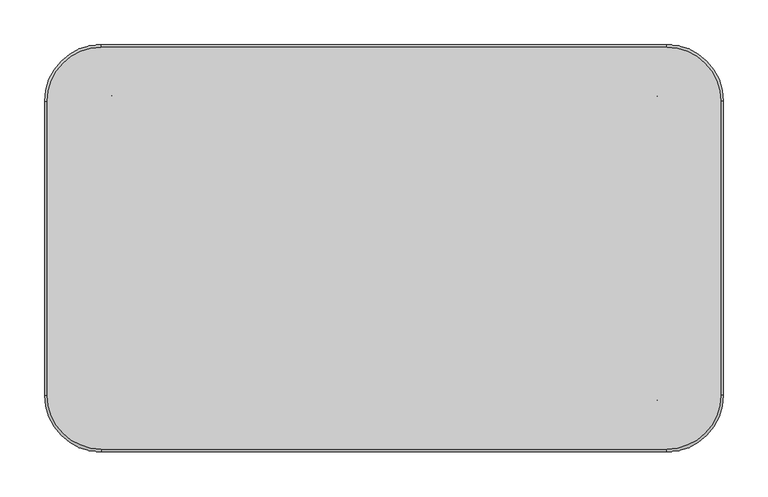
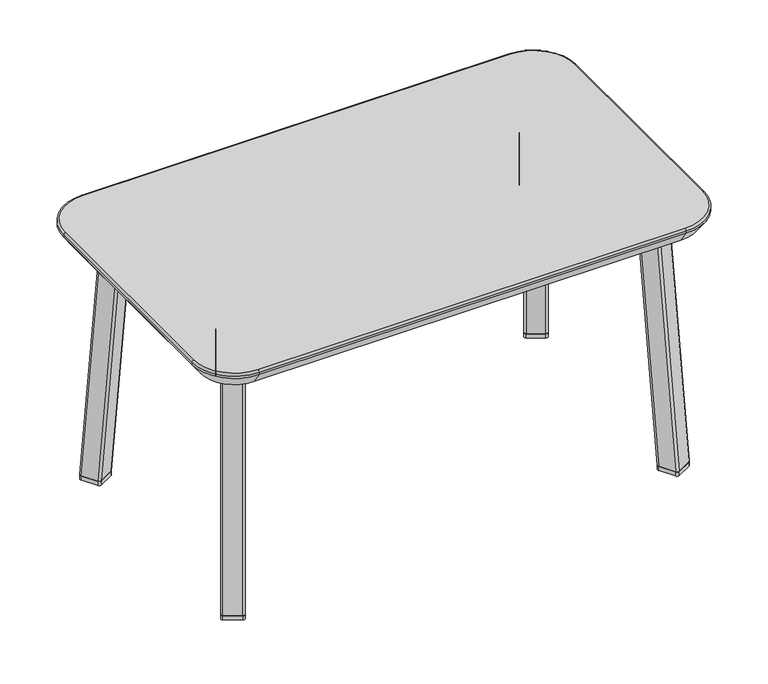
"""IFC4 building model written with IfcOpenShell, lengths in millimetres: furniture geometry, Stance_HC-Jensen-Occasional-Table : JETF183016-T."""

from ifc_helpers import new_model, si_unit, point, frame, frame_2d, origin, origin_with_axes, place, context, project, spatial, polyline, circle_curve, ellipse_curve, trimmed, segment, composite_curve, outline, extrude, source, transform, mapped, element, save
from ifc_brep_helpers import plane_surface, cylinder_surface, revolved_surface, extruded_surface, advanced_brep


def furniture_792aba99(model_context):
    return source(origin(), model_context, "Body", "SolidModel", [
        extrude(outline(composite_curve([segment(polyline([(347.081574, -184.2321033), (325.0845247, -196.9321056)]), True, "CONTINUOUS"), segment(trimmed(circle_curve(frame_2d((323.4970247, -194.182475)), 3.175), [point((325.0845247, -196.9321056))], [point((320.747394, -195.769975))], False, "CARTESIAN"), True, "CONTINUOUS"), segment(polyline([(320.747394, -195.769975), (307.9983038, -173.687903)]), True, "CONTINUOUS"), segment(trimmed(circle_curve(frame_2d((310.7479345, -172.100403)), 3.175), [point((307.9983038, -173.687903))], [point((309.1604345, -169.3507723))], False, "CARTESIAN"), True, "CONTINUOUS"), segment(polyline([(309.1604345, -169.3507723), (331.1574838, -156.65077)]), True, "CONTINUOUS"), segment(trimmed(circle_curve(frame_2d((332.7449838, -159.4004007)), 3.175), [point((331.1574838, -156.65077))], [point((335.4946144, -157.8129007))], False, "CARTESIAN"), True, "CONTINUOUS"), segment(polyline([(335.4946144, -157.8129007), (348.2437046, -179.8949726)]), True, "CONTINUOUS"), segment(trimmed(circle_curve(frame_2d((345.494074, -181.4824726)), 3.175), [point((348.2437046, -179.8949726))], [point((347.081574, -184.2321033))], False, "CARTESIAN"), True, "CONTINUOUS")], self_intersect=False)), origin_with_axes(), (0.0, 0.0, 1.0), 6.35),
        extrude(outline(composite_curve([segment(polyline([(325.0845247, 196.9321056), (347.081574, 184.2321033)]), True, "CONTINUOUS"), segment(trimmed(circle_curve(frame_2d((345.494074, 181.4824726)), 3.175), [point((347.081574, 184.2321033))], [point((348.2437046, 179.8949726))], False, "CARTESIAN"), True, "CONTINUOUS"), segment(polyline([(348.2437046, 179.8949726), (335.4946144, 157.8129007)]), True, "CONTINUOUS"), segment(trimmed(circle_curve(frame_2d((332.7449838, 159.4004007)), 3.175), [point((335.4946144, 157.8129007))], [point((331.1574838, 156.65077))], False, "CARTESIAN"), True, "CONTINUOUS"), segment(polyline([(331.1574838, 156.65077), (309.1604345, 169.3507723)]), True, "CONTINUOUS"), segment(trimmed(circle_curve(frame_2d((310.7479345, 172.100403)), 3.175), [point((309.1604345, 169.3507723))], [point((307.9983038, 173.687903))], False, "CARTESIAN"), True, "CONTINUOUS"), segment(polyline([(307.9983038, 173.687903), (320.747394, 195.769975)]), True, "CONTINUOUS"), segment(trimmed(circle_curve(frame_2d((323.4970247, 194.182475)), 3.175), [point((320.747394, 195.769975))], [point((325.0845247, 196.9321056))], False, "CARTESIAN"), True, "CONTINUOUS")], self_intersect=False)), origin_with_axes(), (0.0, 0.0, 1.0), 6.35),
        advanced_brep(
        [(294.3120024, -143.6325373, 380.5094413), (293.1498717, -147.9696679, 380.5094413), (305.8989619, -170.0517399, 380.5094413), (310.2360926, -171.2138706, 380.5094413), (332.2331418, -158.5138683, 380.5094413), (333.3952725, -154.1767376, 380.5094413), (320.6461823, -132.0946656, 380.5094413), (316.3090516, -130.932535, 380.5094413), (309.1604345, -169.3507723, 6.35), (331.1574838, -156.65077, 6.35), (335.4946144, -157.8129007, 6.35), (348.2437046, -179.8949726, 6.35), (347.081574, -184.2321033, 6.35), (325.0845247, -196.9321056, 6.35), (320.747394, -195.769975, 6.35), (307.9983038, -173.687903, 6.35)],
        [
            (0, 1, circle_curve(frame((295.8995024, -146.3821679, 380.5094413), z_axis=(0.0, 0.0, 1.0), x_axis=(-1.0, 0.0, 0.0)), 3.175)),
            (1, 2),
            (2, 3, circle_curve(frame((308.6485926, -168.4642399, 380.5094413), z_axis=(0.0, 0.0, 1.0), x_axis=(-1.0, 0.0, 0.0)), 3.175)),
            (3, 4),
            (4, 5, circle_curve(frame((330.6456418, -155.7642376, 380.5094413), z_axis=(0.0, 0.0, 1.0), x_axis=(-1.0, 0.0, 0.0)), 3.175)),
            (5, 6),
            (6, 7, circle_curve(frame((317.8965516, -133.6821656, 380.5094413), z_axis=(0.0, 0.0, 1.0), x_axis=(-1.0, 0.0, 0.0)), 3.175)),
            (7, 0),
            (8, 9),
            (9, 10, circle_curve(frame((332.7449838, -159.4004007, 6.35), z_axis=(0.0, 0.0, -1.0), x_axis=(-1.0, 0.0, 0.0)), 3.175)),
            (10, 11),
            (11, 12, circle_curve(frame((345.494074, -181.4824726, 6.35), z_axis=(0.0, 0.0, -1.0), x_axis=(-1.0, 0.0, 0.0)), 3.175)),
            (12, 13),
            (13, 14, circle_curve(frame((323.4970247, -194.182475, 6.35), z_axis=(0.0, 0.0, -1.0), x_axis=(-1.0, 0.0, 0.0)), 3.175)),
            (14, 15),
            (15, 8, circle_curve(frame((310.7479345, -172.100403, 6.35), z_axis=(0.0, 0.0, -1.0), x_axis=(-1.0, 0.0, 0.0)), 3.175)),
            (15, 1),
            (0, 8),
            (14, 2),
            (13, 3),
            (12, 4),
            (11, 5),
            (10, 6),
            (9, 7),
        ],
        [
            plane_surface(frame((313.2725721, -151.0732028, 380.5094413), z_axis=(0.0, 0.0, 1.0000000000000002), x_axis=(0.8660254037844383, 0.5000000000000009, 0.0))),
            plane_surface(frame((328.1210042, -176.7914378, 6.35), z_axis=(0.0, 0.0, -1.0000000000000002), x_axis=(0.8660254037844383, 0.5000000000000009, 0.0))),
            extruded_surface(trimmed(circle_curve(frame((295.8995024, -146.3821679, 380.5094413), z_axis=(0.0, 0.0, -1.0), x_axis=(-1.0, 0.0, 0.0)), 3.175), [point((293.1498717, -147.9696679, 380.5094413))], [point((294.3120024, -143.6325373, 380.5094413))], True, "CARTESIAN"), (14.848432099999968, -25.718235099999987, -374.15944129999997), 375.3361041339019),
            plane_surface(frame((314.3728489, -184.728939, 6.35), z_axis=(-0.8660254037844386, -0.5000000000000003, -5.1142628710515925e-09), x_axis=(-0.5000000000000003, 0.8660254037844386, 0.0))),
            extruded_surface(trimmed(circle_curve(frame((308.6485926, -168.4642399, 380.5094413), z_axis=(0.0, 0.0, -1.0), x_axis=(-1.0, 0.0, 0.0)), 3.175), [point((310.2360926, -171.2138706, 380.5094413))], [point((305.8989619, -170.0517399, 380.5094413))], True, "CARTESIAN"), (14.848432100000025, -25.718235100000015, -374.15944129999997), 375.3361041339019),
            plane_surface(frame((336.0830493, -190.5821045, 6.35), z_axis=(0.4984325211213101, -0.863310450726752, 0.07912071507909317), x_axis=(-0.8660254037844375, -0.500000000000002, 0.0))),
            extruded_surface(trimmed(circle_curve(frame((330.6456418, -155.7642376, 380.5094413), z_axis=(0.0, 0.0, -1.0), x_axis=(-1.0, 0.0, 0.0)), 3.175), [point((333.3952725, -154.1767376, 380.5094413))], [point((332.2331418, -158.5138683, 380.5094413))], True, "CARTESIAN"), (14.84843219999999, -25.718234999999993, -374.15944129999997), 375.3361041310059),
            plane_surface(frame((341.8691595, -168.8539367, 6.35), z_axis=(0.866025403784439, 0.4999999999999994, 5.114262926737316e-09), x_axis=(0.4999999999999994, -0.866025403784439, 0.0))),
            extruded_surface(trimmed(circle_curve(frame((317.8965516, -133.6821656, 380.5094413), z_axis=(0.0, 0.0, -1.0), x_axis=(-1.0, 0.0, 0.0)), 3.175), [point((316.3090516, -130.932535, 380.5094413))], [point((320.6461823, -132.0946656, 380.5094413))], True, "CARTESIAN"), (14.84843219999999, -25.718235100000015, -374.15944129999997), 375.336104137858),
            plane_surface(frame((320.1589591, -163.0007712, 6.35), z_axis=(-0.49843252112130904, 0.8633104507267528, -0.07912071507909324), x_axis=(0.8660254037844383, 0.5000000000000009, 0.0))),
        ],
        [
            (0, [[1, 2, 3, 4, 5, 6, 7, 8]]),
            (1, [[9, 10, 11, 12, 13, 14, 15, 16]]),
            (2, [[17, -1, 18, -16]]),
            (3, [[19, -2, -17, -15]]),
            (4, [[20, -3, -19, -14]]),
            (5, [[21, -4, -20, -13]]),
            (6, [[22, -5, -21, -12]]),
            (7, [[23, -6, -22, -11]]),
            (8, [[24, -7, -23, -10]]),
            (9, [[-18, -8, -24, -9]]),
        ],
    ),
        extrude(outline(polyline([(353.1820372, 175.8326548), (251.9982292, 0.0), (353.1820372, -175.8326548), (314.7068508, -197.9733992), (200.7820372, 0.0), (314.7068508, 197.9733992), (353.1820372, 175.8326548)])), frame((0.0, 0.0, 380.5094413), z_axis=(0.0, 0.0, 1.0), x_axis=(1.0, 0.0, 0.0)), (0.0, 0.0, 1.0), 3.1749879),
        advanced_brep(
        [(294.3120024, 143.6325373, 380.5094413), (316.3090516, 130.932535, 380.5094413), (320.6461823, 132.0946656, 380.5094413), (333.3952725, 154.1767376, 380.5094413), (332.2331418, 158.5138683, 380.5094413), (310.2360926, 171.2138706, 380.5094413), (305.8989619, 170.0517399, 380.5094413), (293.1498717, 147.9696679, 380.5094413), (309.1604345, 169.3507723, 6.35), (307.9983038, 173.687903, 6.35), (320.747394, 195.769975, 6.35), (325.0845247, 196.9321056, 6.35), (347.081574, 184.2321033, 6.35), (348.2437046, 179.8949726, 6.35), (335.4946144, 157.8129007, 6.35), (331.1574838, 156.65077, 6.35)],
        [
            (0, 1),
            (1, 2, circle_curve(frame((317.8965516, 133.6821656, 380.5094413), z_axis=(0.0, 0.0, 1.0), x_axis=(-1.0, 0.0, 0.0)), 3.175)),
            (2, 3),
            (3, 4, circle_curve(frame((330.6456418, 155.7642376, 380.5094413), z_axis=(0.0, 0.0, 1.0), x_axis=(-1.0, 0.0, 0.0)), 3.175)),
            (4, 5),
            (5, 6, circle_curve(frame((308.6485926, 168.4642399, 380.5094413), z_axis=(0.0, 0.0, 1.0), x_axis=(-1.0, 0.0, 0.0)), 3.175)),
            (6, 7),
            (7, 0, circle_curve(frame((295.8995024, 146.3821679, 380.5094413), z_axis=(0.0, 0.0, 1.0), x_axis=(-1.0, 0.0, 0.0)), 3.175)),
            (8, 9, circle_curve(frame((310.7479345, 172.100403, 6.35), z_axis=(0.0, 0.0, -1.0), x_axis=(-1.0, 0.0, 0.0)), 3.175)),
            (9, 10),
            (10, 11, circle_curve(frame((323.4970247, 194.182475, 6.35), z_axis=(0.0, 0.0, -1.0), x_axis=(-1.0, 0.0, 0.0)), 3.175)),
            (11, 12),
            (12, 13, circle_curve(frame((345.494074, 181.4824726, 6.35), z_axis=(0.0, 0.0, -1.0), x_axis=(-1.0, 0.0, 0.0)), 3.175)),
            (13, 14),
            (14, 15, circle_curve(frame((332.7449838, 159.4004007, 6.35), z_axis=(0.0, 0.0, -1.0), x_axis=(-1.0, 0.0, 0.0)), 3.175)),
            (15, 8),
            (8, 0),
            (7, 9),
            (6, 10),
            (5, 11),
            (4, 12),
            (3, 13),
            (2, 14),
            (1, 15),
        ],
        [
            plane_surface(frame((313.2725721, 151.0732028, 380.5094413), z_axis=(0.0, 0.0, 1.0), x_axis=(-0.8660254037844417, 0.49999999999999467, 0.0))),
            plane_surface(frame((328.1210042, 176.7914378, 6.35), z_axis=(0.0, 0.0, -1.0), x_axis=(-0.8660254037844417, 0.49999999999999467, 0.0))),
            extruded_surface(trimmed(circle_curve(frame((295.8995024, 146.3821679, 380.5094413), z_axis=(0.0, 0.0, -1.0), x_axis=(-1.0, 0.0, 0.0)), 3.175), [point((294.3120024, 143.6325373, 380.5094413))], [point((293.1498717, 147.9696679, 380.5094413))], True, "CARTESIAN"), (14.848432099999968, 25.718235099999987, -374.15944129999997), 375.3361041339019),
            plane_surface(frame((314.3728489, 184.728939, 6.35), z_axis=(-0.8660254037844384, 0.5000000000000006, -5.114262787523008e-09), x_axis=(0.5000000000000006, 0.8660254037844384, 0.0))),
            extruded_surface(trimmed(circle_curve(frame((308.6485926, 168.4642399, 380.5094413), z_axis=(0.0, 0.0, -1.0), x_axis=(-1.0, 0.0, 0.0)), 3.175), [point((305.8989619, 170.0517399, 380.5094413))], [point((310.2360926, 171.2138706, 380.5094413))], True, "CARTESIAN"), (14.848432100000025, 25.718235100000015, -374.15944129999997), 375.3361041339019),
            plane_surface(frame((336.0830493, 190.5821045, 6.35), z_axis=(0.4984325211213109, 0.8633104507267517, 0.07912071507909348), x_axis=(0.8660254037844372, -0.5000000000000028, 0.0))),
            extruded_surface(trimmed(circle_curve(frame((330.6456418, 155.7642376, 380.5094413), z_axis=(0.0, 0.0, -1.0), x_axis=(-1.0, 0.0, 0.0)), 3.175), [point((332.2331418, 158.5138683, 380.5094413))], [point((333.3952725, 154.1767376, 380.5094413))], True, "CARTESIAN"), (14.84843219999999, 25.718234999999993, -374.15944129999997), 375.3361041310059),
            plane_surface(frame((341.8691595, 168.8539367, 6.35), z_axis=(0.8660254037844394, -0.49999999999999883, 5.1142628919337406e-09), x_axis=(-0.49999999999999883, -0.8660254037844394, 0.0))),
            extruded_surface(trimmed(circle_curve(frame((317.8965516, 133.6821656, 380.5094413), z_axis=(0.0, 0.0, -1.0), x_axis=(-1.0, 0.0, 0.0)), 3.175), [point((320.6461823, 132.0946656, 380.5094413))], [point((316.3090516, 130.932535, 380.5094413))], True, "CARTESIAN"), (14.84843219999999, 25.718235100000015, -374.15944129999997), 375.336104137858),
            plane_surface(frame((320.1589591, 163.0007712, 6.35), z_axis=(-0.4984325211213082, -0.8633104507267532, -0.07912071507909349), x_axis=(-0.8660254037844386, 0.5000000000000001, 0.0))),
        ],
        [
            (0, [[1, 2, 3, 4, 5, 6, 7, 8]]),
            (1, [[9, 10, 11, 12, 13, 14, 15, 16]]),
            (2, [[17, -8, 18, -9]]),
            (3, [[-18, -7, 19, -10]]),
            (4, [[-19, -6, 20, -11]]),
            (5, [[-20, -5, 21, -12]]),
            (6, [[-21, -4, 22, -13]]),
            (7, [[-22, -3, 23, -14]]),
            (8, [[-23, -2, 24, -15]]),
            (9, [[-24, -1, -17, -16]]),
        ],
    ),
        extrude(outline(composite_curve([segment(trimmed(circle_curve(frame_2d((-344.090244, -181.4824726)), 3.175), [point((-345.677744, -184.2321033))], [point((-346.8398747, -179.8949726))], False, "CARTESIAN"), True, "CONTINUOUS"), segment(polyline([(-346.8398747, -179.8949726), (-334.0907845, -157.8129007)]), True, "CONTINUOUS"), segment(trimmed(circle_curve(frame_2d((-331.3411538, -159.4004007)), 3.175), [point((-334.0907845, -157.8129007))], [point((-329.7536538, -156.65077))], False, "CARTESIAN"), True, "CONTINUOUS"), segment(polyline([(-329.7536538, -156.65077), (-307.7566046, -169.3507723)]), True, "CONTINUOUS"), segment(trimmed(circle_curve(frame_2d((-309.3441046, -172.100403)), 3.175), [point((-307.7566046, -169.3507723))], [point((-306.5944739, -173.687903))], False, "CARTESIAN"), True, "CONTINUOUS"), segment(polyline([(-306.5944739, -173.687903), (-319.3435641, -195.769975)]), True, "CONTINUOUS"), segment(trimmed(circle_curve(frame_2d((-322.0931948, -194.182475)), 3.175), [point((-319.3435641, -195.769975))], [point((-323.6806948, -196.9321056))], False, "CARTESIAN"), True, "CONTINUOUS"), segment(polyline([(-323.6806948, -196.9321056), (-345.677744, -184.2321033)]), True, "CONTINUOUS")], self_intersect=False)), origin_with_axes(), (0.0, 0.0, 1.0), 6.35),
        extrude(outline(composite_curve([segment(trimmed(circle_curve(frame_2d((-322.0931948, 194.182475)), 3.175), [point((-323.6806948, 196.9321056))], [point((-319.3435641, 195.769975))], False, "CARTESIAN"), True, "CONTINUOUS"), segment(polyline([(-319.3435641, 195.769975), (-306.5944739, 173.687903)]), True, "CONTINUOUS"), segment(trimmed(circle_curve(frame_2d((-309.3441046, 172.100403)), 3.175), [point((-306.5944739, 173.687903))], [point((-307.7566046, 169.3507723))], False, "CARTESIAN"), True, "CONTINUOUS"), segment(polyline([(-307.7566046, 169.3507723), (-329.7536538, 156.65077)]), True, "CONTINUOUS"), segment(trimmed(circle_curve(frame_2d((-331.3411538, 159.4004007)), 3.175), [point((-329.7536538, 156.65077))], [point((-334.0907845, 157.8129007))], False, "CARTESIAN"), True, "CONTINUOUS"), segment(polyline([(-334.0907845, 157.8129007), (-346.8398747, 179.8949726)]), True, "CONTINUOUS"), segment(trimmed(circle_curve(frame_2d((-344.090244, 181.4824726)), 3.175), [point((-346.8398747, 179.8949726))], [point((-345.677744, 184.2321033))], False, "CARTESIAN"), True, "CONTINUOUS"), segment(polyline([(-345.677744, 184.2321033), (-323.6806948, 196.9321056)]), True, "CONTINUOUS")], self_intersect=False)), origin_with_axes(), (0.0, 0.0, 1.0), 6.35),
        advanced_brep(
        [(-292.9081724, -143.6325373, 380.5094413), (-314.9052217, -130.932535, 380.5094413), (-319.2423524, -132.0946656, 380.5094413), (-331.9914426, -154.1767376, 380.5094413), (-330.8293119, -158.5138683, 380.5094413), (-308.8322626, -171.2138706, 380.5094413), (-304.495132, -170.0517399, 380.5094413), (-291.7460418, -147.9696679, 380.5094413), (-307.7566046, -169.3507723, 6.35), (-306.5944739, -173.687903, 6.35), (-319.3435641, -195.769975, 6.35), (-323.6806948, -196.9321056, 6.35), (-345.677744, -184.2321033, 6.35), (-346.8398747, -179.8949726, 6.35), (-334.0907845, -157.8129007, 6.35), (-329.7536538, -156.65077, 6.35)],
        [
            (0, 1),
            (1, 2, circle_curve(frame((-316.4927217, -133.6821656, 380.5094413), z_axis=(0.0, 0.0, 1.0), x_axis=(1.0, 0.0, 0.0)), 3.175)),
            (2, 3),
            (3, 4, circle_curve(frame((-329.2418119, -155.7642376, 380.5094413), z_axis=(0.0, 0.0, 1.0), x_axis=(1.0, 0.0, 0.0)), 3.175)),
            (4, 5),
            (5, 6, circle_curve(frame((-307.2447626, -168.4642399, 380.5094413), z_axis=(0.0, 0.0, 1.0), x_axis=(1.0, 0.0, 0.0)), 3.175)),
            (6, 7),
            (7, 0, circle_curve(frame((-294.4956724, -146.3821679, 380.5094413), z_axis=(0.0, 0.0, 1.0), x_axis=(1.0, 0.0, 0.0)), 3.175)),
            (8, 9, circle_curve(frame((-309.3441046, -172.100403, 6.35), z_axis=(0.0, 0.0, -1.0), x_axis=(1.0, 0.0, 0.0)), 3.175)),
            (9, 10),
            (10, 11, circle_curve(frame((-322.0931948, -194.182475, 6.35), z_axis=(0.0, 0.0, -1.0), x_axis=(1.0, 0.0, 0.0)), 3.175)),
            (11, 12),
            (12, 13, circle_curve(frame((-344.090244, -181.4824726, 6.35), z_axis=(0.0, 0.0, -1.0), x_axis=(1.0, 0.0, 0.0)), 3.175)),
            (13, 14),
            (14, 15, circle_curve(frame((-331.3411538, -159.4004007, 6.35), z_axis=(0.0, 0.0, -1.0), x_axis=(1.0, 0.0, 0.0)), 3.175)),
            (15, 8),
            (8, 0),
            (7, 9),
            (6, 10),
            (5, 11),
            (4, 12),
            (3, 13),
            (2, 14),
            (1, 15),
        ],
        [
            plane_surface(frame((-311.8687422, -151.0732028, 380.5094413), z_axis=(0.0, 0.0, 1.0000000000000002), x_axis=(-0.8660254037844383, 0.5000000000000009, 0.0))),
            plane_surface(frame((-326.7171743, -176.7914378, 6.35), z_axis=(0.0, 0.0, -1.0000000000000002), x_axis=(-0.8660254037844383, 0.5000000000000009, 0.0))),
            extruded_surface(trimmed(circle_curve(frame((-309.3441046, -172.100403, 6.35), z_axis=(0.0, 0.0, 1.0), x_axis=(1.0, 0.0, 0.0)), 3.175), [point((-306.5944739, -173.687903, 6.35))], [point((-307.7566046, -169.3507723, 6.35))], True, "CARTESIAN"), (14.84843219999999, 25.718235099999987, 374.15944129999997), 375.336104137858),
            plane_surface(frame((-312.969019, -184.728939, 6.35), z_axis=(0.8660254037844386, -0.5000000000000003, -5.1142628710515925e-09), x_axis=(0.5000000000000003, 0.8660254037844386, 0.0))),
            extruded_surface(trimmed(circle_curve(frame((-322.0931948, -194.182475, 6.35), z_axis=(0.0, 0.0, 1.0), x_axis=(1.0, 0.0, 0.0)), 3.175), [point((-323.6806948, -196.9321056, 6.35))], [point((-319.3435641, -195.769975, 6.35))], True, "CARTESIAN"), (14.84843219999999, 25.718235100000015, 374.15944129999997), 375.336104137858),
            plane_surface(frame((-334.6792194, -190.5821045, 6.35), z_axis=(-0.4984325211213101, -0.863310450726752, 0.07912071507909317), x_axis=(0.8660254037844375, -0.500000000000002, 0.0))),
            extruded_surface(trimmed(circle_curve(frame((-344.090244, -181.4824726, 6.35), z_axis=(0.0, 0.0, 1.0), x_axis=(1.0, 0.0, 0.0)), 3.175), [point((-346.8398747, -179.8949726, 6.35))], [point((-345.677744, -184.2321033, 6.35))], True, "CARTESIAN"), (14.848432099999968, 25.718234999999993, 374.15944129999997), 375.3361041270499),
            plane_surface(frame((-340.4653296, -168.8539367, 6.35), z_axis=(-0.866025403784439, 0.4999999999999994, 5.114262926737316e-09), x_axis=(-0.4999999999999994, -0.866025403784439, 0.0))),
            extruded_surface(trimmed(circle_curve(frame((-331.3411538, -159.4004007, 6.35), z_axis=(0.0, 0.0, 1.0), x_axis=(1.0, 0.0, 0.0)), 3.175), [point((-329.7536538, -156.65077, 6.35))], [point((-334.0907845, -157.8129007, 6.35))], True, "CARTESIAN"), (14.848432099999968, 25.718235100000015, 374.15944129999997), 375.3361041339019),
            plane_surface(frame((-318.7551292, -163.0007712, 6.35), z_axis=(0.49843252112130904, 0.8633104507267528, -0.07912071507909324), x_axis=(-0.8660254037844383, 0.5000000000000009, 0.0))),
        ],
        [
            (0, [[1, 2, 3, 4, 5, 6, 7, 8]]),
            (1, [[9, 10, 11, 12, 13, 14, 15, 16]]),
            (2, [[-9, 17, -8, 18]]),
            (3, [[-10, -18, -7, 19]]),
            (4, [[-11, -19, -6, 20]]),
            (5, [[-12, -20, -5, 21]]),
            (6, [[-13, -21, -4, 22]]),
            (7, [[-14, -22, -3, 23]]),
            (8, [[-15, -23, -2, 24]]),
            (9, [[-16, -24, -1, -17]]),
        ],
    ),
        extrude(outline(polyline([(-351.7782073, 175.8326548), (-313.3030209, 197.9733992), (-199.3782073, 0.0), (-313.3030209, -197.9733992), (-351.7782073, -175.8326548), (-250.5943993, 0.0), (-351.7782073, 175.8326548)])), frame((0.0, 0.0, 380.5094413), z_axis=(0.0, 0.0, 1.0), x_axis=(1.0, 0.0, 0.0)), (0.0, 0.0, 1.0), 3.1749879),
        advanced_brep(
        [(-292.9081724, 143.6325373, 380.5094413), (-291.7460418, 147.9696679, 380.5094413), (-304.495132, 170.0517399, 380.5094413), (-308.8322626, 171.2138706, 380.5094413), (-330.8293119, 158.5138683, 380.5094413), (-331.9914426, 154.1767376, 380.5094413), (-319.2423524, 132.0946656, 380.5094413), (-314.9052217, 130.932535, 380.5094413), (-307.7566046, 169.3507723, 6.35), (-329.7536538, 156.65077, 6.35), (-334.0907845, 157.8129007, 6.35), (-346.8398747, 179.8949726, 6.35), (-345.677744, 184.2321033, 6.35), (-323.6806948, 196.9321056, 6.35), (-319.3435641, 195.769975, 6.35), (-306.5944739, 173.687903, 6.35)],
        [
            (0, 1, circle_curve(frame((-294.4956724, 146.3821679, 380.5094413), z_axis=(0.0, 0.0, 1.0), x_axis=(1.0, 0.0, 0.0)), 3.175)),
            (1, 2),
            (2, 3, circle_curve(frame((-307.2447626, 168.4642399, 380.5094413), z_axis=(0.0, 0.0, 1.0), x_axis=(1.0, 0.0, 0.0)), 3.175)),
            (3, 4),
            (4, 5, circle_curve(frame((-329.2418119, 155.7642376, 380.5094413), z_axis=(0.0, 0.0, 1.0), x_axis=(1.0, 0.0, 0.0)), 3.175)),
            (5, 6),
            (6, 7, circle_curve(frame((-316.4927217, 133.6821656, 380.5094413), z_axis=(0.0, 0.0, 1.0), x_axis=(1.0, 0.0, 0.0)), 3.175)),
            (7, 0),
            (8, 9),
            (9, 10, circle_curve(frame((-331.3411538, 159.4004007, 6.35), z_axis=(0.0, 0.0, -1.0), x_axis=(1.0, 0.0, 0.0)), 3.175)),
            (10, 11),
            (11, 12, circle_curve(frame((-344.090244, 181.4824726, 6.35), z_axis=(0.0, 0.0, -1.0), x_axis=(1.0, 0.0, 0.0)), 3.175)),
            (12, 13),
            (13, 14, circle_curve(frame((-322.0931948, 194.182475, 6.35), z_axis=(0.0, 0.0, -1.0), x_axis=(1.0, 0.0, 0.0)), 3.175)),
            (14, 15),
            (15, 8, circle_curve(frame((-309.3441046, 172.100403, 6.35), z_axis=(0.0, 0.0, -1.0), x_axis=(1.0, 0.0, 0.0)), 3.175)),
            (15, 1),
            (0, 8),
            (14, 2),
            (13, 3),
            (12, 4),
            (11, 5),
            (10, 6),
            (9, 7),
        ],
        [
            plane_surface(frame((-311.8687422, 151.0732028, 380.5094413), z_axis=(0.0, 0.0, 1.0), x_axis=(0.8660254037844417, 0.49999999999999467, 0.0))),
            plane_surface(frame((-326.7171743, 176.7914378, 6.35), z_axis=(0.0, 0.0, -1.0), x_axis=(0.8660254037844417, 0.49999999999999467, 0.0))),
            extruded_surface(trimmed(circle_curve(frame((-309.3441046, 172.100403, 6.35), z_axis=(0.0, 0.0, 1.0), x_axis=(1.0, 0.0, 0.0)), 3.175), [point((-307.7566046, 169.3507723, 6.35))], [point((-306.5944739, 173.687903, 6.35))], True, "CARTESIAN"), (14.84843219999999, -25.718235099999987, 374.15944129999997), 375.336104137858),
            plane_surface(frame((-312.969019, 184.728939, 6.35), z_axis=(0.8660254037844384, 0.5000000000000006, -5.114262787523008e-09), x_axis=(-0.5000000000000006, 0.8660254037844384, 0.0))),
            extruded_surface(trimmed(circle_curve(frame((-322.0931948, 194.182475, 6.35), z_axis=(0.0, 0.0, 1.0), x_axis=(1.0, 0.0, 0.0)), 3.175), [point((-319.3435641, 195.769975, 6.35))], [point((-323.6806948, 196.9321056, 6.35))], True, "CARTESIAN"), (14.84843219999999, -25.718235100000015, 374.15944129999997), 375.336104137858),
            plane_surface(frame((-334.6792194, 190.5821045, 6.35), z_axis=(-0.4984325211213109, 0.8633104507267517, 0.07912071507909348), x_axis=(-0.8660254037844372, -0.5000000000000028, 0.0))),
            extruded_surface(trimmed(circle_curve(frame((-344.090244, 181.4824726, 6.35), z_axis=(0.0, 0.0, 1.0), x_axis=(1.0, 0.0, 0.0)), 3.175), [point((-345.677744, 184.2321033, 6.35))], [point((-346.8398747, 179.8949726, 6.35))], True, "CARTESIAN"), (14.848432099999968, -25.718234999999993, 374.15944129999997), 375.3361041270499),
            plane_surface(frame((-340.4653296, 168.8539367, 6.35), z_axis=(-0.8660254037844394, -0.49999999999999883, 5.1142628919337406e-09), x_axis=(0.49999999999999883, -0.8660254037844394, 0.0))),
            extruded_surface(trimmed(circle_curve(frame((-331.3411538, 159.4004007, 6.35), z_axis=(0.0, 0.0, 1.0), x_axis=(1.0, 0.0, 0.0)), 3.175), [point((-334.0907845, 157.8129007, 6.35))], [point((-329.7536538, 156.65077, 6.35))], True, "CARTESIAN"), (14.848432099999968, -25.718235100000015, 374.15944129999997), 375.3361041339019),
            plane_surface(frame((-318.7551292, 163.0007712, 6.35), z_axis=(0.4984325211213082, -0.8633104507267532, -0.07912071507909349), x_axis=(0.8660254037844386, 0.5000000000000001, 0.0))),
        ],
        [
            (0, [[1, 2, 3, 4, 5, 6, 7, 8]]),
            (1, [[9, 10, 11, 12, 13, 14, 15, 16]]),
            (2, [[-16, 17, -1, 18]]),
            (3, [[-15, 19, -2, -17]]),
            (4, [[-14, 20, -3, -19]]),
            (5, [[-13, 21, -4, -20]]),
            (6, [[-12, 22, -5, -21]]),
            (7, [[-11, 23, -6, -22]]),
            (8, [[-10, 24, -7, -23]]),
            (9, [[-9, -18, -8, -24]]),
        ],
    ),
        advanced_brep(
        [(381.0, -165.1, 405.9094413), (317.5, -228.6, 405.9094413), (317.5, -228.6, 402.7343928), (381.0, -165.1, 402.7343928), (317.5, -215.2610718, 383.6844292), (367.6610718, -165.1, 383.6844292), (381.0, 165.1, 402.7343928), (381.0, 165.1, 405.9094413), (367.6610718, 165.1, 383.6844292), (317.5, 228.6, 402.7343928), (317.5, 228.6, 405.9094413), (317.5, 215.2610718, 383.6844292), (-317.5, 228.6, 402.7343928), (-317.5, 228.6, 405.9094413), (-317.5, 215.2610718, 383.6844292), (-381.0, 165.1, 402.7343928), (-381.0, 165.1, 405.9094413), (-367.6610718, 165.1, 383.6844292), (-381.0, -165.1, 402.7343928), (-381.0, -165.1, 405.9094413), (-367.6610718, -165.1, 383.6844292), (-317.5, -228.6, 402.7343928), (-317.5, -228.6, 405.9094413), (-317.5, -215.2610718, 383.6844292), (-377.825, 165.1, 409.0844413), (-377.825, -165.1, 409.0844413), (-317.5, -225.425, 409.0844413), (317.5, -225.425, 409.0844413), (377.825, -165.1, 409.0844413), (377.825, 165.1, 409.0844413), (317.5, 225.425, 409.0844413), (-317.5, 225.425, 409.0844413)],
        [
            (0, 1, circle_curve(frame((317.5, -165.1, 405.9094413), z_axis=(0.0, 0.0, -1.0), x_axis=(0.0, -1.0, 0.0)), 63.5)),
            (1, 2),
            (2, 3, circle_curve(frame((317.5, -165.1, 402.7343928), z_axis=(0.0, 0.0, 1.0), x_axis=(0.0, -1.0, 0.0)), 63.5)),
            (3, 0),
            (2, 4),
            (4, 5, circle_curve(frame((317.5, -165.1, 383.6844292), z_axis=(0.0, 0.0, 1.0), x_axis=(0.0, -1.0, 0.0)), 50.1610718)),
            (5, 3),
            (3, 6),
            (6, 7),
            (7, 0),
            (5, 8),
            (8, 6),
            (6, 9, circle_curve(frame((317.5, 165.1, 402.7343928), z_axis=(0.0, 0.0, 1.0), x_axis=(1.0, 0.0, 0.0)), 63.5)),
            (9, 10),
            (10, 7, circle_curve(frame((317.5, 165.1, 405.9094413), z_axis=(0.0, 0.0, -1.0), x_axis=(1.0, 0.0, 0.0)), 63.5)),
            (8, 11, circle_curve(frame((317.5, 165.1, 383.6844292), z_axis=(0.0, 0.0, 1.0), x_axis=(1.0, 0.0, 0.0)), 50.1610718)),
            (11, 9),
            (9, 12),
            (12, 13),
            (13, 10),
            (11, 14),
            (14, 12),
            (12, 15, circle_curve(frame((-317.5, 165.1, 402.7343928), z_axis=(0.0, 0.0, 1.0), x_axis=(0.0, 1.0, 0.0)), 63.5)),
            (15, 16),
            (16, 13, circle_curve(frame((-317.5, 165.1, 405.9094413), z_axis=(0.0, 0.0, -1.0), x_axis=(0.0, 1.0, 0.0)), 63.5)),
            (14, 17, circle_curve(frame((-317.5, 165.1, 383.6844292), z_axis=(0.0, 0.0, 1.0), x_axis=(0.0, 1.0, 0.0)), 50.1610718)),
            (17, 15),
            (15, 18),
            (18, 19),
            (19, 16),
            (17, 20),
            (20, 18),
            (18, 21, circle_curve(frame((-317.5, -165.1, 402.7343928), z_axis=(0.0, 0.0, 1.0), x_axis=(-1.0, 0.0, 0.0)), 63.5)),
            (21, 22),
            (22, 19, circle_curve(frame((-317.5, -165.1, 405.9094413), z_axis=(0.0, 0.0, -1.0), x_axis=(-1.0, 0.0, 0.0)), 63.5)),
            (20, 23, circle_curve(frame((-317.5, -165.1, 383.6844292), z_axis=(0.0, 0.0, 1.0), x_axis=(-1.0, 0.0, 0.0)), 50.1610718)),
            (23, 21),
            (1, 22),
            (21, 2),
            (24, 25),
            (25, 26, circle_curve(frame((-317.5, -165.1, 409.0844413), z_axis=(0.0, 0.0, 1.0), x_axis=(-1.0, 0.0, 0.0)), 60.325)),
            (26, 27),
            (27, 28, circle_curve(frame((317.5, -165.1, 409.0844413), z_axis=(0.0, 0.0, 1.0), x_axis=(0.0, -1.0, 0.0)), 60.325)),
            (28, 29),
            (29, 30, circle_curve(frame((317.5, 165.1, 409.0844413), z_axis=(0.0, 0.0, 1.0), x_axis=(1.0, 0.0, 0.0)), 60.325)),
            (30, 31),
            (31, 24, circle_curve(frame((-317.5, 165.1, 409.0844413), z_axis=(0.0, 0.0, 1.0), x_axis=(0.0, 1.0, 0.0)), 60.325)),
            (4, 23),
            (0, 28, circle_curve(frame((377.825, -165.1, 405.9094413), z_axis=(0.0, -1.0, 0.0), x_axis=(-1.0, 0.0, 0.0)), 3.175)),
            (27, 1, circle_curve(frame((317.5, -225.425, 405.9094413), z_axis=(1.0, 0.0, 0.0), x_axis=(0.0, 1.0, 0.0)), 3.175)),
            (7, 29, circle_curve(frame((377.825, 165.1, 405.9094413), z_axis=(0.0, -1.0, 0.0), x_axis=(-1.0, 0.0, 0.0)), 3.175)),
            (10, 30, circle_curve(frame((317.5, 225.425, 405.9094413), z_axis=(1.0, 0.0, 0.0), x_axis=(0.0, -1.0, 0.0)), 3.175)),
            (13, 31, circle_curve(frame((-317.5, 225.425, 405.9094413), z_axis=(1.0, 0.0, 0.0), x_axis=(0.0, -1.0, 0.0)), 3.175)),
            (16, 24, circle_curve(frame((-377.825, 165.1, 405.9094413), z_axis=(0.0, 1.0, 0.0), x_axis=(1.0, 0.0, 0.0)), 3.175)),
            (19, 25, circle_curve(frame((-377.825, -165.1, 405.9094413), z_axis=(0.0, 1.0, 0.0), x_axis=(1.0, 0.0, 0.0)), 3.175)),
            (22, 26, circle_curve(frame((-317.5, -225.425, 405.9094413), z_axis=(-1.0, 0.0, 0.0), x_axis=(0.0, 1.0, 0.0)), 3.175)),
        ],
        [
            cylinder_surface(frame((317.5, -165.1, 409.0844413), z_axis=(0.0, 0.0, 1.0), x_axis=(0.0, -1.0, 0.0)), 63.5),
            revolved_surface(polyline([(317.5, -215.2610718, 383.6844292), (317.5, -228.6, 402.7343928)]), (317.5, -165.1, 409.0844413), (0.0, 0.0, 1.0)),
            plane_surface(frame((381.0, -165.1, 402.7343928), z_axis=(1.0, 0.0, 0.0), x_axis=(0.0, 1.0, 0.0))),
            plane_surface(frame((367.6610718, -165.1, 383.6844292), z_axis=(0.8191520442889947, 0.0, -0.5735764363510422), x_axis=(0.0, 1.0, 0.0))),
            cylinder_surface(frame((317.5, 165.1, 409.0844413), z_axis=(0.0, 0.0, 1.0), x_axis=(1.0, 0.0, 0.0)), 63.5),
            revolved_surface(polyline([(367.6610718, 165.1, 383.6844292), (381.0, 165.1, 402.7343928)]), (317.5, 165.1, 409.0844413), (0.0, 0.0, 1.0)),
            plane_surface(frame((317.5, 228.6, 402.7343928), z_axis=(0.0, 1.0, 0.0), x_axis=(-1.0, 0.0, 0.0))),
            plane_surface(frame((317.5, 215.2610718, 383.6844292), z_axis=(0.0, 0.8191520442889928, -0.5735764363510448), x_axis=(-1.0, 0.0, 0.0))),
            cylinder_surface(frame((-317.5, 165.1, 409.0844413), z_axis=(0.0, 0.0, 1.0), x_axis=(0.0, 1.0, 0.0)), 63.5),
            revolved_surface(polyline([(-317.5, 215.2610718, 383.6844292), (-317.5, 228.6, 402.7343928)]), (-317.5, 165.1, 409.0844413), (0.0, 0.0, 1.0)),
            plane_surface(frame((-381.0, 165.1, 402.7343928), z_axis=(-1.0, 0.0, 0.0), x_axis=(0.0, -1.0, 0.0))),
            plane_surface(frame((-367.6610718, 165.1, 383.6844292), z_axis=(-0.8191520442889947, 0.0, -0.5735764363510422), x_axis=(0.0, -1.0, 0.0))),
            cylinder_surface(frame((-317.5, -165.1, 409.0844413), z_axis=(0.0, 0.0, 1.0), x_axis=(-1.0, 0.0, 0.0)), 63.5),
            revolved_surface(polyline([(-367.6610718, -165.1, 383.6844292), (-381.0, -165.1, 402.7343928)]), (-317.5, -165.1, 409.0844413), (0.0, 0.0, 1.0)),
            plane_surface(frame((-317.5, -228.6, 402.7343928), z_axis=(0.0, -1.0, 0.0), x_axis=(1.0, 0.0, 0.0))),
            plane_surface(frame((-317.5, -225.425, 409.0844413), z_axis=(0.0, 0.0, 1.0), x_axis=(1.0, 0.0, 0.0))),
            plane_surface(frame((-317.5, -203.2000061, 383.6844292), z_axis=(0.0, 0.0, -1.0), x_axis=(1.0, 0.0, 0.0))),
            plane_surface(frame((-317.5, -215.2610718, 383.6844292), z_axis=(0.0, -0.8191520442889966, -0.5735764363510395), x_axis=(1.0, 0.0, 0.0))),
            revolved_surface(trimmed(ellipse_curve(frame((317.5, -225.425, 405.9094413), z_axis=(-1.0, 0.0, 0.0), x_axis=(0.0, 1.0, 0.0)), 3.175, 3.175), [point((317.5, -228.6, 405.9094413))], [point((317.5, -225.425, 409.0844413))], True, "CARTESIAN"), (317.5, -165.1, 409.0844413), (0.0, 0.0, 1.0)),
            cylinder_surface(frame((377.825, -165.1, 405.9094413), z_axis=(0.0, -1.0, 0.0), x_axis=(-1.0, 0.0, 0.0)), 3.175),
            revolved_surface(trimmed(ellipse_curve(frame((377.825, 165.1, 405.9094413), z_axis=(0.0, -1.0, 0.0), x_axis=(-1.0, 0.0, 0.0)), 3.175, 3.175), [point((381.0, 165.1, 405.9094413))], [point((377.825, 165.1, 409.0844413))], True, "CARTESIAN"), (317.5, 165.1, 409.0844413), (0.0, 0.0, 1.0)),
            cylinder_surface(frame((317.5, 225.425, 405.9094413), z_axis=(1.0, 0.0, 0.0), x_axis=(0.0, -1.0, 0.0)), 3.175),
            revolved_surface(trimmed(ellipse_curve(frame((-317.5, 225.425, 405.9094413), z_axis=(1.0, 0.0, 0.0), x_axis=(0.0, -1.0, 0.0)), 3.175, 3.175), [point((-317.5, 228.6, 405.9094413))], [point((-317.5, 225.425, 409.0844413))], True, "CARTESIAN"), (-317.5, 165.1, 409.0844413), (0.0, 0.0, 1.0)),
            cylinder_surface(frame((-377.825, 165.1, 405.9094413), z_axis=(0.0, 1.0, 0.0), x_axis=(1.0, 0.0, 0.0)), 3.175),
            revolved_surface(trimmed(ellipse_curve(frame((-377.825, -165.1, 405.9094413), z_axis=(0.0, 1.0, 0.0), x_axis=(1.0, 0.0, 0.0)), 3.175, 3.175), [point((-381.0, -165.1, 405.9094413))], [point((-377.825, -165.1, 409.0844413))], True, "CARTESIAN"), (-317.5, -165.1, 409.0844413), (0.0, 0.0, 1.0)),
            cylinder_surface(frame((-317.5, -225.425, 405.9094413), z_axis=(-1.0, 0.0, 0.0), x_axis=(0.0, 1.0, 0.0)), 3.175),
        ],
        [
            (0, [[1, 2, 3, 4]]),
            (1, [[-3, 5, 6, 7]]),
            (2, [[-4, 8, 9, 10]]),
            (3, [[-7, 11, 12, -8]]),
            (4, [[-9, 13, 14, 15]]),
            (5, [[-12, 16, 17, -13]]),
            (6, [[-14, 18, 19, 20]]),
            (7, [[-17, 21, 22, -18]]),
            (8, [[-19, 23, 24, 25]]),
            (9, [[-22, 26, 27, -23]]),
            (10, [[-24, 28, 29, 30]]),
            (11, [[-27, 31, 32, -28]]),
            (12, [[-29, 33, 34, 35]]),
            (13, [[-32, 36, 37, -33]]),
            (14, [[-2, 38, -34, 39]]),
            (15, [[40, 41, 42, 43, 44, 45, 46, 47]]),
            (16, [[-6, 48, -36, -31, -26, -21, -16, -11]]),
            (17, [[-5, -39, -37, -48]]),
            (18, [[-1, 49, -43, 50]]),
            (19, [[-10, 51, -44, -49]]),
            (20, [[-15, 52, -45, -51]]),
            (21, [[-20, 53, -46, -52]]),
            (22, [[-25, 54, -47, -53]]),
            (23, [[-30, 55, -40, -54]]),
            (24, [[-35, 56, -41, -55]]),
            (25, [[-38, -50, -42, -56]]),
        ],
    ),
    ])


if __name__ == "__main__":
    model = new_model("IFC4")
    model_context = context("Model", 3, world=origin())
    ifc_project = project(units=[si_unit("LENGTHUNIT", "METRE", prefix="MILLI")], contexts=[model_context])
    site = spatial("IfcSite", under=ifc_project)
    building = spatial("IfcBuilding", under=site)
    placement = place(None, origin())
    furniture_shape = furniture_792aba99(model_context)
    element("IfcFurniture", 1, ObjectType="Stance_HC-Jensen-Occasional-Table : JETF183016-T", at=placement, inside=building, context=model_context, shape_type="MappedRepresentation", body=[
        mapped(furniture_shape, transform((0.0, 0.0, 0.0), x_axis=(1.0, 0.0, 0.0), y_axis=(0.0, 1.0, 0.0), z_axis=(0.0, 0.0, 1.0))),
    ])
    save(model, "model.ifc")
